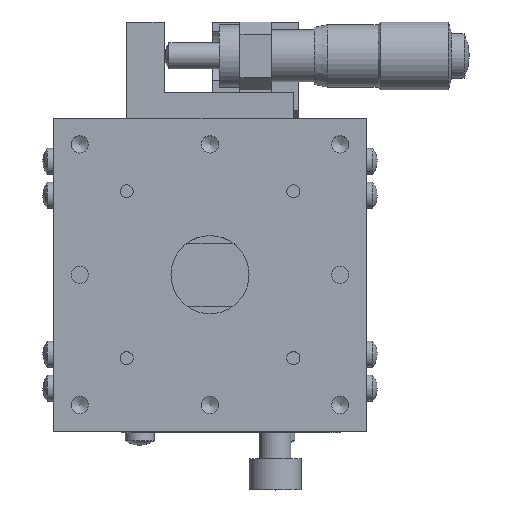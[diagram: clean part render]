
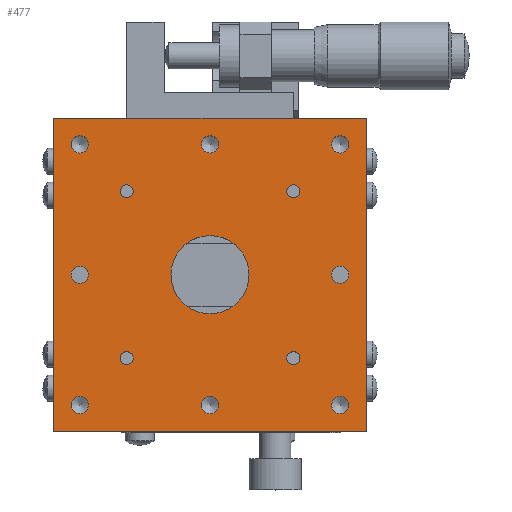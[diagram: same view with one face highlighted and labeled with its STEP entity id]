
A CAD part, top view. The second image highlights one B-rep face of the part: STEP entity #477.
In plain terms, the highlighted planar face has unit normal (0, 0, 1).
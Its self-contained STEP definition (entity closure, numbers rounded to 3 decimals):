
#477 = ADVANCED_FACE( '', ( #1058, #1059, #1060, #1061, #1062, #1063, #1064, #1065, #1066, #1067, #1068, #1069, #1070, #1071 ), #1072, .T. );
#1058 = FACE_BOUND( '', #1690, .T. );
#1059 = FACE_BOUND( '', #1691, .T. );
#1060 = FACE_BOUND( '', #1692, .T. );
#1061 = FACE_BOUND( '', #1693, .T. );
#1062 = FACE_BOUND( '', #1694, .T. );
#1063 = FACE_BOUND( '', #1695, .T. );
#1064 = FACE_BOUND( '', #1696, .T. );
#1065 = FACE_BOUND( '', #1697, .T. );
#1066 = FACE_BOUND( '', #1698, .T. );
#1067 = FACE_BOUND( '', #1699, .T. );
#1068 = FACE_BOUND( '', #1700, .T. );
#1069 = FACE_BOUND( '', #1701, .T. );
#1070 = FACE_OUTER_BOUND( '', #1702, .T. );
#1071 = FACE_BOUND( '', #1703, .T. );
#1072 = PLANE( '', #1704 );
#1690 = EDGE_LOOP( '', ( #2866 ) );
#1691 = EDGE_LOOP( '', ( #2867 ) );
#1692 = EDGE_LOOP( '', ( #2868 ) );
#1693 = EDGE_LOOP( '', ( #2869 ) );
#1694 = EDGE_LOOP( '', ( #2870 ) );
#1695 = EDGE_LOOP( '', ( #2871 ) );
#1696 = EDGE_LOOP( '', ( #2872 ) );
#1697 = EDGE_LOOP( '', ( #2873 ) );
#1698 = EDGE_LOOP( '', ( #2874 ) );
#1699 = EDGE_LOOP( '', ( #2875 ) );
#1700 = EDGE_LOOP( '', ( #2876 ) );
#1701 = EDGE_LOOP( '', ( #2877 ) );
#1702 = EDGE_LOOP( '', ( #2878, #2879, #2880, #2881 ) );
#1703 = EDGE_LOOP( '', ( #2882 ) );
#1704 = AXIS2_PLACEMENT_3D( '', #2883, #2884, #2885 );
#2866 = ORIENTED_EDGE( '', *, *, #3526, .T. );
#2867 = ORIENTED_EDGE( '', *, *, #3193, .T. );
#2868 = ORIENTED_EDGE( '', *, *, #3538, .T. );
#2869 = ORIENTED_EDGE( '', *, *, #3528, .T. );
#2870 = ORIENTED_EDGE( '', *, *, #3547, .T. );
#2871 = ORIENTED_EDGE( '', *, *, #3548, .T. );
#2872 = ORIENTED_EDGE( '', *, *, #3344, .T. );
#2873 = ORIENTED_EDGE( '', *, *, #3549, .T. );
#2874 = ORIENTED_EDGE( '', *, *, #3488, .T. );
#2875 = ORIENTED_EDGE( '', *, *, #3418, .T. );
#2876 = ORIENTED_EDGE( '', *, *, #3393, .T. );
#2877 = ORIENTED_EDGE( '', *, *, #3133, .T. );
#2878 = ORIENTED_EDGE( '', *, *, #3485, .F. );
#2879 = ORIENTED_EDGE( '', *, *, #3263, .F. );
#2880 = ORIENTED_EDGE( '', *, *, #3157, .F. );
#2881 = ORIENTED_EDGE( '', *, *, #3388, .F. );
#2882 = ORIENTED_EDGE( '', *, *, #3512, .F. );
#2883 = CARTESIAN_POINT( '', ( 0., 0., 20. ) );
#2884 = DIRECTION( '', ( 0., 0., 1. ) );
#2885 = DIRECTION( '', ( 0., 1., 0. ) );
#3133 = EDGE_CURVE( '', #3644, #3644, #3645, .T. );
#3157 = EDGE_CURVE( '', #3685, #3687, #3688, .T. );
#3193 = EDGE_CURVE( '', #3745, #3745, #3746, .T. );
#3263 = EDGE_CURVE( '', #3687, #3866, #3867, .T. );
#3344 = EDGE_CURVE( '', #3985, #3985, #3986, .T. );
#3388 = EDGE_CURVE( '', #4050, #3685, #4052, .T. );
#3393 = EDGE_CURVE( '', #4060, #4060, #4061, .T. );
#3418 = EDGE_CURVE( '', #4094, #4094, #4095, .T. );
#3485 = EDGE_CURVE( '', #3866, #4050, #4186, .T. );
#3488 = EDGE_CURVE( '', #4190, #4190, #4191, .T. );
#3512 = EDGE_CURVE( '', #4222, #4222, #4223, .T. );
#3526 = EDGE_CURVE( '', #4238, #4238, #4239, .T. );
#3528 = EDGE_CURVE( '', #4241, #4241, #4242, .T. );
#3538 = EDGE_CURVE( '', #4253, #4253, #4254, .T. );
#3547 = EDGE_CURVE( '', #4263, #4263, #4264, .T. );
#3548 = EDGE_CURVE( '', #4265, #4265, #4266, .T. );
#3549 = EDGE_CURVE( '', #4267, #4267, #4268, .T. );
#3644 = VERTEX_POINT( '', #4386 );
#3645 = CIRCLE( '', #4387, 1.65 );
#3685 = VERTEX_POINT( '', #4434 );
#3687 = VERTEX_POINT( '', #4437 );
#3688 = LINE( '', #4438, #4439 );
#3745 = VERTEX_POINT( '', #4513 );
#3746 = CIRCLE( '', #4514, 1.25 );
#3866 = VERTEX_POINT( '', #4674 );
#3867 = LINE( '', #4675, #4676 );
#3985 = VERTEX_POINT( '', #4829 );
#3986 = CIRCLE( '', #4830, 1.65 );
#4050 = VERTEX_POINT( '', #4913 );
#4052 = LINE( '', #4916, #4917 );
#4060 = VERTEX_POINT( '', #4925 );
#4061 = CIRCLE( '', #4926, 1.65 );
#4094 = VERTEX_POINT( '', #4962 );
#4095 = CIRCLE( '', #4963, 1.65 );
#4186 = LINE( '', #5084, #5085 );
#4190 = VERTEX_POINT( '', #5089 );
#4191 = CIRCLE( '', #5090, 1.65 );
#4222 = VERTEX_POINT( '', #5128 );
#4223 = CIRCLE( '', #5129, 7.5 );
#4238 = VERTEX_POINT( '', #5149 );
#4239 = CIRCLE( '', #5150, 1.25 );
#4241 = VERTEX_POINT( '', #5152 );
#4242 = CIRCLE( '', #5153, 1.25 );
#4253 = VERTEX_POINT( '', #5167 );
#4254 = CIRCLE( '', #5168, 1.25 );
#4263 = VERTEX_POINT( '', #5180 );
#4264 = CIRCLE( '', #5181, 1.65 );
#4265 = VERTEX_POINT( '', #5182 );
#4266 = CIRCLE( '', #5183, 1.65 );
#4267 = VERTEX_POINT( '', #5184 );
#4268 = CIRCLE( '', #5185, 1.65 );
#4386 = CARTESIAN_POINT( '', ( -25., -26.65, 20. ) );
#4387 = AXIS2_PLACEMENT_3D( '', #5261, #5262, #5263 );
#4434 = CARTESIAN_POINT( '', ( -30., 30., 20. ) );
#4437 = CARTESIAN_POINT( '', ( 30., 30., 20. ) );
#4438 = CARTESIAN_POINT( '', ( 0., 30., 20. ) );
#4439 = VECTOR( '', #5299, 1000. );
#4513 = CARTESIAN_POINT( '', ( 16., 14.75, 20. ) );
#4514 = AXIS2_PLACEMENT_3D( '', #5341, #5342, #5343 );
#4674 = CARTESIAN_POINT( '', ( 30., -30., 20. ) );
#4675 = CARTESIAN_POINT( '', ( 30., 0., 20. ) );
#4676 = VECTOR( '', #5438, 1000. );
#4829 = CARTESIAN_POINT( '', ( 0., 23.35, 20. ) );
#4830 = AXIS2_PLACEMENT_3D( '', #5528, #5529, #5530 );
#4913 = CARTESIAN_POINT( '', ( -30., -30., 20. ) );
#4916 = CARTESIAN_POINT( '', ( -30., 0., 20. ) );
#4917 = VECTOR( '', #5581, 1000. );
#4925 = CARTESIAN_POINT( '', ( 0., -26.65, 20. ) );
#4926 = AXIS2_PLACEMENT_3D( '', #5591, #5592, #5593 );
#4962 = CARTESIAN_POINT( '', ( 25., -26.65, 20. ) );
#4963 = AXIS2_PLACEMENT_3D( '', #5627, #5628, #5629 );
#5084 = CARTESIAN_POINT( '', ( 0., -30., 20. ) );
#5085 = VECTOR( '', #5690, 1000. );
#5089 = CARTESIAN_POINT( '', ( 25., -1.65, 20. ) );
#5090 = AXIS2_PLACEMENT_3D( '', #5694, #5695, #5696 );
#5128 = CARTESIAN_POINT( '', ( 0., 7.5, 20. ) );
#5129 = AXIS2_PLACEMENT_3D( '', #5725, #5726, #5727 );
#5149 = CARTESIAN_POINT( '', ( -16., 14.75, 20. ) );
#5150 = AXIS2_PLACEMENT_3D( '', #5733, #5734, #5735 );
#5152 = CARTESIAN_POINT( '', ( -16., -17.25, 20. ) );
#5153 = AXIS2_PLACEMENT_3D( '', #5736, #5737, #5738 );
#5167 = CARTESIAN_POINT( '', ( 16., -17.25, 20. ) );
#5168 = AXIS2_PLACEMENT_3D( '', #5742, #5743, #5744 );
#5180 = CARTESIAN_POINT( '', ( -25., -1.65, 20. ) );
#5181 = AXIS2_PLACEMENT_3D( '', #5748, #5749, #5750 );
#5182 = CARTESIAN_POINT( '', ( -25., 23.35, 20. ) );
#5183 = AXIS2_PLACEMENT_3D( '', #5751, #5752, #5753 );
#5184 = CARTESIAN_POINT( '', ( 25., 23.35, 20. ) );
#5185 = AXIS2_PLACEMENT_3D( '', #5754, #5755, #5756 );
#5261 = CARTESIAN_POINT( '', ( -25., -25., 20. ) );
#5262 = DIRECTION( '', ( 0., 0., -1. ) );
#5263 = DIRECTION( '', ( 0., -1., 0. ) );
#5299 = DIRECTION( '', ( 1., 0., 0. ) );
#5341 = CARTESIAN_POINT( '', ( 16., 16., 20. ) );
#5342 = DIRECTION( '', ( 0., 0., -1. ) );
#5343 = DIRECTION( '', ( 0., -1., 0. ) );
#5438 = DIRECTION( '', ( 0., -1., 0. ) );
#5528 = CARTESIAN_POINT( '', ( 0., 25., 20. ) );
#5529 = DIRECTION( '', ( 0., 0., -1. ) );
#5530 = DIRECTION( '', ( 0., -1., 0. ) );
#5581 = DIRECTION( '', ( 0., 1., 0. ) );
#5591 = CARTESIAN_POINT( '', ( 0., -25., 20. ) );
#5592 = DIRECTION( '', ( 0., 0., -1. ) );
#5593 = DIRECTION( '', ( 0., -1., 0. ) );
#5627 = CARTESIAN_POINT( '', ( 25., -25., 20. ) );
#5628 = DIRECTION( '', ( 0., 0., -1. ) );
#5629 = DIRECTION( '', ( 0., -1., 0. ) );
#5690 = DIRECTION( '', ( -1., 0., 0. ) );
#5694 = CARTESIAN_POINT( '', ( 25., 0., 20. ) );
#5695 = DIRECTION( '', ( 0., 0., -1. ) );
#5696 = DIRECTION( '', ( 0., -1., 0. ) );
#5725 = CARTESIAN_POINT( '', ( 0., 0., 20. ) );
#5726 = DIRECTION( '', ( 0., 0., 1. ) );
#5727 = DIRECTION( '', ( 0., 1., 0. ) );
#5733 = CARTESIAN_POINT( '', ( -16., 16., 20. ) );
#5734 = DIRECTION( '', ( 0., 0., -1. ) );
#5735 = DIRECTION( '', ( 0., -1., 0. ) );
#5736 = CARTESIAN_POINT( '', ( -16., -16., 20. ) );
#5737 = DIRECTION( '', ( 0., 0., -1. ) );
#5738 = DIRECTION( '', ( 0., -1., 0. ) );
#5742 = CARTESIAN_POINT( '', ( 16., -16., 20. ) );
#5743 = DIRECTION( '', ( 0., 0., -1. ) );
#5744 = DIRECTION( '', ( 0., -1., 0. ) );
#5748 = CARTESIAN_POINT( '', ( -25., 0., 20. ) );
#5749 = DIRECTION( '', ( 0., 0., -1. ) );
#5750 = DIRECTION( '', ( 0., -1., 0. ) );
#5751 = CARTESIAN_POINT( '', ( -25., 25., 20. ) );
#5752 = DIRECTION( '', ( 0., 0., -1. ) );
#5753 = DIRECTION( '', ( 0., -1., 0. ) );
#5754 = CARTESIAN_POINT( '', ( 25., 25., 20. ) );
#5755 = DIRECTION( '', ( 0., 0., -1. ) );
#5756 = DIRECTION( '', ( 0., -1., 0. ) );
